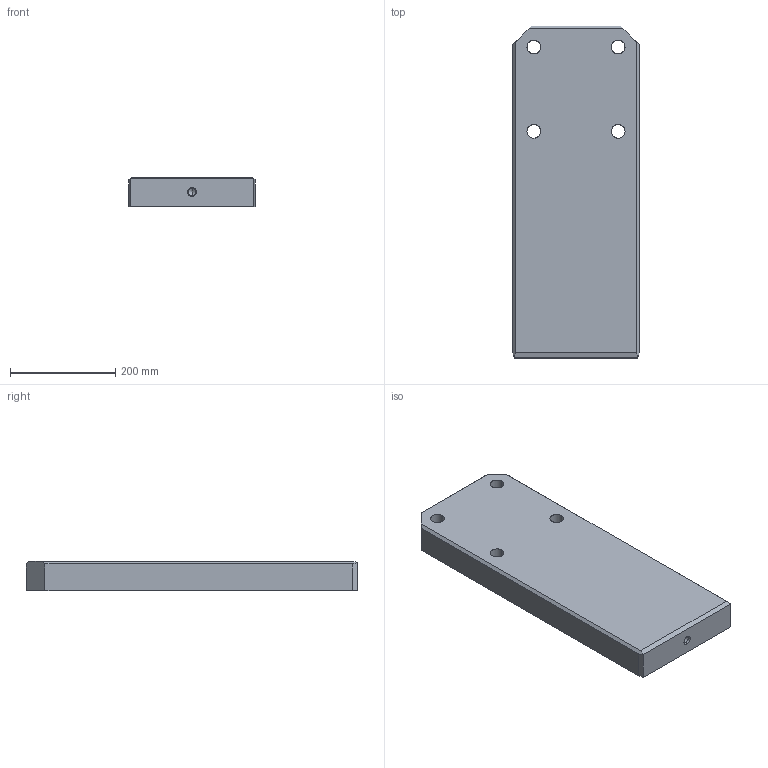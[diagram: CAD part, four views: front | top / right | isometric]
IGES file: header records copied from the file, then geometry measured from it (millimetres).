
Start section: START RECORD GO HERE.
Global section: file name: A927-240X630X56.igs; native system: DASSAULT SYSTEMES CATIA V5 R20 - www.3ds.com; preprocessor: CATIA Version 5 Release 20 ; author: Utente; organization: NB04-ASUS; date: 20200408.202803; units: millimetre
Bounding box: 240 x 630 x 56 mm (x, y, z)
Surface area: 411072.3 mm2 (no closed solid volume)
Topology: 0 solids, 0 shells, 52 faces, 242 edges, 240 vertices
Faces by surface type: revolution 32, extrusion 20
